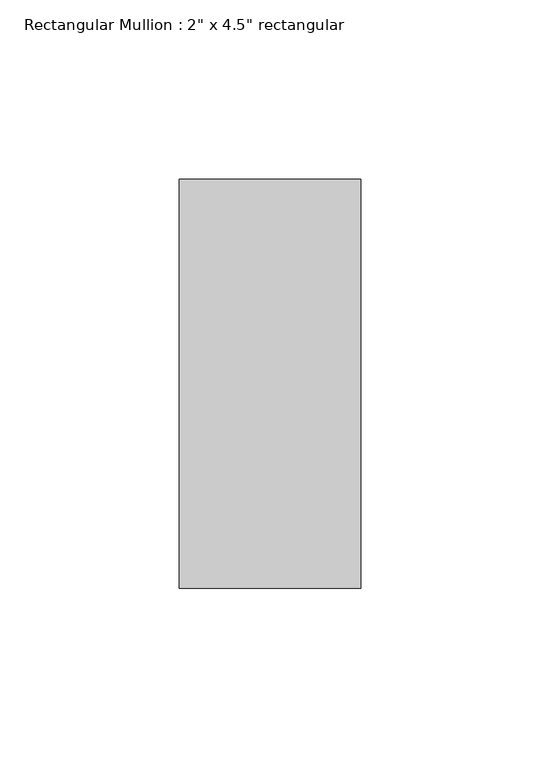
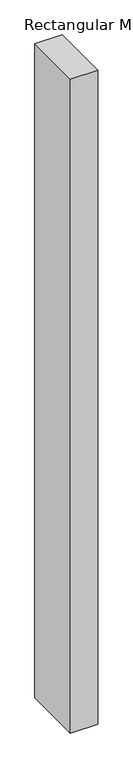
"""IFC4 building model written with IfcOpenShell, lengths in millimetres: member geometry."""

from ifc_helpers import new_model, si_unit, frame, origin, place, context, project, spatial, polyline, outline, extrude, source, transform, mapped, element, save


def member_45eb7f2e(model_context):
    return source(origin(), model_context, "Body", "SweptSolid", [
        extrude(outline(polyline([(0.0, 57.15), (0.0, -57.15), (-50.8, -57.15), (-50.8, 57.15), (0.0, 57.15)])), frame((0.0, 0.0, -1282.0938644), z_axis=(0.0, 0.0, 1.0), x_axis=(1.0, 0.0, 0.0)), (0.0, 0.0, 1.0), 1282.0938644),
    ])


if __name__ == "__main__":
    model = new_model("IFC4")
    model_context = context("Model", 3, world=origin())
    ifc_project = project(units=[si_unit("LENGTHUNIT", "METRE", prefix="MILLI")], contexts=[model_context])
    site = spatial("IfcSite", under=ifc_project)
    building = spatial("IfcBuilding", under=site)
    placement = place(None, origin())
    member_shape = member_45eb7f2e(model_context)
    element("IfcMember", 1, ObjectType="Rectangular Mullion : 2\" x 4.5\" rectangular", at=placement, inside=building, context=model_context, shape_type="MappedRepresentation", body=[
        mapped(member_shape, transform((0.0, 0.0, 0.0), x_axis=(1.0, 0.0, 0.0), y_axis=(0.0, 1.0, 0.0), z_axis=(0.0, 0.0, 1.0))),
    ])
    save(model, "model.ifc")
